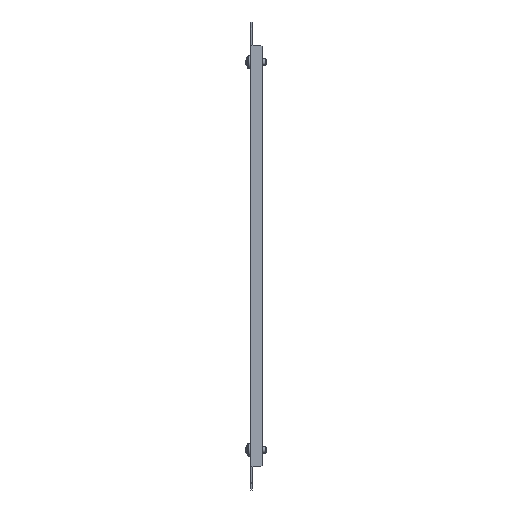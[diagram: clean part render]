
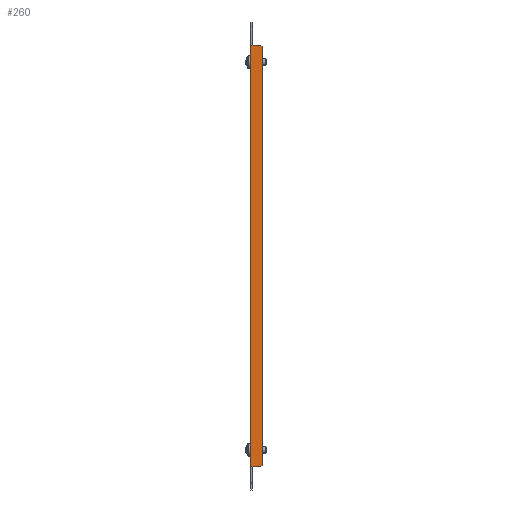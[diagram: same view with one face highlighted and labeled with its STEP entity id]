
A CAD part, left-side view. The second image highlights one B-rep face of the part: STEP entity #260.
In plain terms, the highlighted planar face has unit normal (-1, 0, 0) as drawn and (1, 0, 0) by its records, which use the part's own axes.
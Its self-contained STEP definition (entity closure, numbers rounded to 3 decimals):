
#4 = VECTOR ( 'NONE', #1350, 1000. ) ;
#43 = VECTOR ( 'NONE', #589, 1000. ) ;
#45 = LINE ( 'NONE', #2494, #2784 ) ;
#63 = ORIENTED_EDGE ( 'NONE', *, *, #1605, .F. ) ;
#74 = DIRECTION ( 'NONE',  ( -1., 0., 0. ) ) ;
#134 = EDGE_CURVE ( 'NONE', #2602, #749, #2471, .T. ) ;
#165 = LINE ( 'NONE', #1973, #43 ) ;
#214 = VERTEX_POINT ( 'NONE', #1850 ) ;
#215 = LINE ( 'NONE', #676, #2594 ) ;
#260 = ADVANCED_FACE ( 'NONE', ( #2566 ), #2089, .F. ) ;
#559 = DIRECTION ( 'NONE',  ( 0., 0., 1. ) ) ;
#563 = VERTEX_POINT ( 'NONE', #569 ) ;
#569 = CARTESIAN_POINT ( 'NONE',  ( 184., -162., -9. ) ) ;
#571 = EDGE_CURVE ( 'NONE', #1227, #214, #1667, .T. ) ;
#589 = DIRECTION ( 'NONE',  ( 0., -1., 0. ) ) ;
#603 = ORIENTED_EDGE ( 'NONE', *, *, #1720, .T. ) ;
#613 = CARTESIAN_POINT ( 'NONE',  ( 184., -163., 0. ) ) ;
#615 = LINE ( 'NONE', #1110, #1966 ) ;
#676 = CARTESIAN_POINT ( 'NONE',  ( 184., 0., -9. ) ) ;
#724 = ORIENTED_EDGE ( 'NONE', *, *, #785, .T. ) ;
#749 = VERTEX_POINT ( 'NONE', #2425 ) ;
#785 = EDGE_CURVE ( 'NONE', #1647, #1515, #165, .T. ) ;
#788 = DIRECTION ( 'NONE',  ( 0., 0.707, 0.707 ) ) ;
#829 = CARTESIAN_POINT ( 'NONE',  ( 184., -163., 0. ) ) ;
#955 = DIRECTION ( 'NONE',  ( 0., 0., 1. ) ) ;
#1022 = LINE ( 'NONE', #2812, #1204 ) ;
#1110 = CARTESIAN_POINT ( 'NONE',  ( 184., -163., 0. ) ) ;
#1112 = VERTEX_POINT ( 'NONE', #1206 ) ;
#1114 = CARTESIAN_POINT ( 'NONE',  ( 184., -162., -9. ) ) ;
#1132 = ORIENTED_EDGE ( 'NONE', *, *, #2469, .T. ) ;
#1204 = VECTOR ( 'NONE', #559, 1000. ) ;
#1206 = CARTESIAN_POINT ( 'NONE',  ( 184., 163., -2.1 ) ) ;
#1227 = VERTEX_POINT ( 'NONE', #1844 ) ;
#1314 = EDGE_CURVE ( 'NONE', #214, #1112, #45, .T. ) ;
#1329 = VECTOR ( 'NONE', #2440, 1000. ) ;
#1350 = DIRECTION ( 'NONE',  ( 0., 0.707, -0.707 ) ) ;
#1379 = VECTOR ( 'NONE', #788, 1000. ) ;
#1406 = ORIENTED_EDGE ( 'NONE', *, *, #2869, .T. ) ;
#1472 = CARTESIAN_POINT ( 'NONE',  ( 184., 163., -8. ) ) ;
#1515 = VERTEX_POINT ( 'NONE', #829 ) ;
#1580 = DIRECTION ( 'NONE',  ( 0., 1., 0. ) ) ;
#1605 = EDGE_CURVE ( 'NONE', #2602, #1515, #615, .T. ) ;
#1647 = VERTEX_POINT ( 'NONE', #2523 ) ;
#1653 = CARTESIAN_POINT ( 'NONE',  ( 184., 0., 0. ) ) ;
#1667 = LINE ( 'NONE', #1472, #1379 ) ;
#1720 = EDGE_CURVE ( 'NONE', #563, #1227, #215, .T. ) ;
#1725 = DIRECTION ( 'NONE',  ( 0., 0., 1. ) ) ;
#1755 = ORIENTED_EDGE ( 'NONE', *, *, #1314, .T. ) ;
#1813 = CARTESIAN_POINT ( 'NONE',  ( 184., -163., -2.1 ) ) ;
#1844 = CARTESIAN_POINT ( 'NONE',  ( 184., 162., -9. ) ) ;
#1850 = CARTESIAN_POINT ( 'NONE',  ( 184., 163., -8. ) ) ;
#1966 = VECTOR ( 'NONE', #1725, 1000. ) ;
#1973 = CARTESIAN_POINT ( 'NONE',  ( 184., 0., 0. ) ) ;
#2089 = PLANE ( 'NONE',  #2831 ) ;
#2175 = EDGE_LOOP ( 'NONE', ( #603, #2650, #1755, #1406, #724, #63, #2656, #1132 ) ) ;
#2210 = LINE ( 'NONE', #1114, #4 ) ;
#2425 = CARTESIAN_POINT ( 'NONE',  ( 184., -163., -8. ) ) ;
#2440 = DIRECTION ( 'NONE',  ( 0., 0., -1. ) ) ;
#2469 = EDGE_CURVE ( 'NONE', #749, #563, #2210, .T. ) ;
#2471 = LINE ( 'NONE', #613, #1329 ) ;
#2494 = CARTESIAN_POINT ( 'NONE',  ( 184., 163., 0. ) ) ;
#2523 = CARTESIAN_POINT ( 'NONE',  ( 184., 163., 0. ) ) ;
#2566 = FACE_OUTER_BOUND ( 'NONE', #2175, .T. ) ;
#2594 = VECTOR ( 'NONE', #1580, 1000. ) ;
#2602 = VERTEX_POINT ( 'NONE', #1813 ) ;
#2650 = ORIENTED_EDGE ( 'NONE', *, *, #571, .T. ) ;
#2656 = ORIENTED_EDGE ( 'NONE', *, *, #134, .T. ) ;
#2755 = DIRECTION ( 'NONE',  ( 0., 0., 1. ) ) ;
#2784 = VECTOR ( 'NONE', #2755, 1000. ) ;
#2812 = CARTESIAN_POINT ( 'NONE',  ( 184., 163., -2.1 ) ) ;
#2831 = AXIS2_PLACEMENT_3D ( 'NONE', #1653, #74, #955 ) ;
#2869 = EDGE_CURVE ( 'NONE', #1112, #1647, #1022, .T. ) ;
